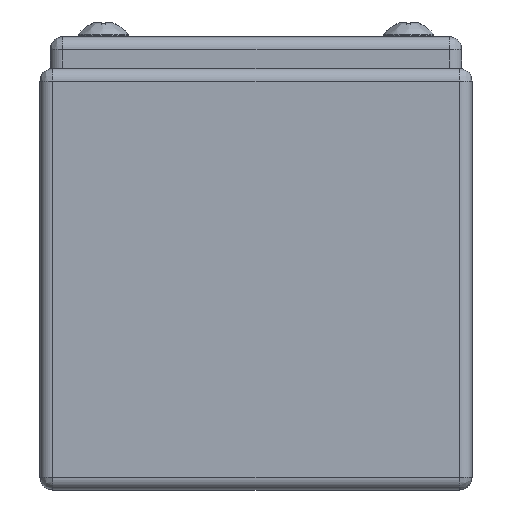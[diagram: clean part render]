
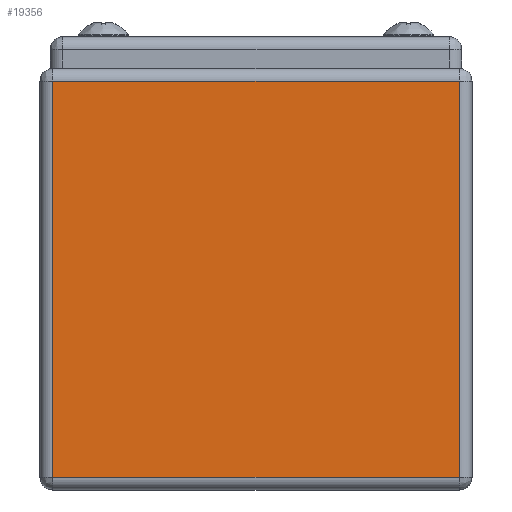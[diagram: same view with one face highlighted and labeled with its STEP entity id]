
A CAD part, front view. The second image highlights one B-rep face of the part: STEP entity #19356.
In plain terms, the highlighted planar face has unit normal (0, -1, 0).
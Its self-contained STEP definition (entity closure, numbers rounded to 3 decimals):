
#189 = CARTESIAN_POINT ( 'NONE',  ( 2.4, 0., 77.6 ) ) ;
#384 = ORIENTED_EDGE ( 'NONE', *, *, #491, .F. ) ;
#491 = EDGE_CURVE ( 'NONE', #7326, #21095, #12958, .T. ) ;
#939 = AXIS2_PLACEMENT_3D ( 'NONE', #9257, #10761, #12658 ) ;
#1074 = ORIENTED_EDGE ( 'NONE', *, *, #8920, .F. ) ;
#1474 = CARTESIAN_POINT ( 'NONE',  ( 79.6, 0., 78.8 ) ) ;
#2589 = CARTESIAN_POINT ( 'NONE',  ( 2.4, 0., 78.8 ) ) ;
#3669 = EDGE_CURVE ( 'NONE', #6201, #7326, #9749, .T. ) ;
#4366 = DIRECTION ( 'NONE',  ( 0., 0., 1. ) ) ;
#4934 = CARTESIAN_POINT ( 'NONE',  ( 0., 0., 77.6 ) ) ;
#6201 = VERTEX_POINT ( 'NONE', #15108 ) ;
#7326 = VERTEX_POINT ( 'NONE', #189 ) ;
#7537 = VECTOR ( 'NONE', #18452, 1000. ) ;
#8225 = VECTOR ( 'NONE', #4366, 1000. ) ;
#8920 = EDGE_CURVE ( 'NONE', #20248, #6201, #17597, .T. ) ;
#9040 = PLANE ( 'NONE',  #939 ) ;
#9257 = CARTESIAN_POINT ( 'NONE',  ( 0., 0., 78.8 ) ) ;
#9749 = LINE ( 'NONE', #2589, #8225 ) ;
#10761 = DIRECTION ( 'NONE',  ( 0., 1., 0. ) ) ;
#11235 = ORIENTED_EDGE ( 'NONE', *, *, #20738, .F. ) ;
#12094 = DIRECTION ( 'NONE',  ( -1., 0., 0. ) ) ;
#12658 = DIRECTION ( 'NONE',  ( 0., 0., 1. ) ) ;
#12958 = LINE ( 'NONE', #4934, #7537 ) ;
#13502 = VECTOR ( 'NONE', #15122, 1000. ) ;
#13545 = CARTESIAN_POINT ( 'NONE',  ( 0., 0., 2.4 ) ) ;
#15108 = CARTESIAN_POINT ( 'NONE',  ( 2.4, 0., 2.4 ) ) ;
#15122 = DIRECTION ( 'NONE',  ( 0., 0., -1. ) ) ;
#15786 = VECTOR ( 'NONE', #12094, 1000. ) ;
#16687 = CARTESIAN_POINT ( 'NONE',  ( 79.6, 0., 2.4 ) ) ;
#17597 = LINE ( 'NONE', #13545, #15786 ) ;
#17920 = LINE ( 'NONE', #1474, #13502 ) ;
#18294 = ORIENTED_EDGE ( 'NONE', *, *, #3669, .F. ) ;
#18452 = DIRECTION ( 'NONE',  ( 1., 0., 0. ) ) ;
#18832 = CARTESIAN_POINT ( 'NONE',  ( 79.6, 0., 77.6 ) ) ;
#19095 = FACE_OUTER_BOUND ( 'NONE', #21062, .T. ) ;
#19356 = ADVANCED_FACE ( 'NONE', ( #19095 ), #9040, .F. ) ;
#20248 = VERTEX_POINT ( 'NONE', #16687 ) ;
#20738 = EDGE_CURVE ( 'NONE', #21095, #20248, #17920, .T. ) ;
#21062 = EDGE_LOOP ( 'NONE', ( #11235, #384, #18294, #1074 ) ) ;
#21095 = VERTEX_POINT ( 'NONE', #18832 ) ;
